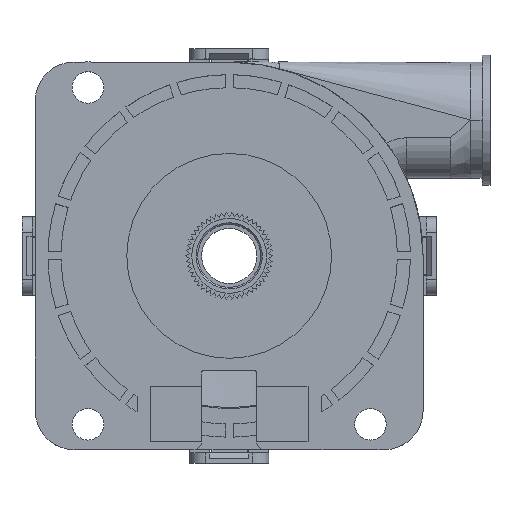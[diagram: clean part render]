
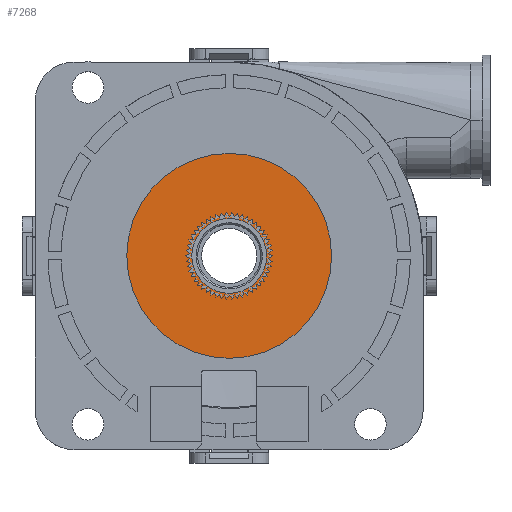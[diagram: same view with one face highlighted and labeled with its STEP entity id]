
A CAD part, top view. The second image highlights one B-rep face of the part: STEP entity #7268.
In plain terms, the highlighted planar face has unit normal (0, 0, 1).
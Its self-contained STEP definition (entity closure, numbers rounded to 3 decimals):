
#2613=CARTESIAN_POINT('',(0.,0.,19.85));
#2614=DIRECTION('',(0.,0.,1.));
#2615=DIRECTION('',(-1.,0.,0.));
#2616=AXIS2_PLACEMENT_3D('',#2613,#2614,#2615);
#2618=CARTESIAN_POINT('',(0.,0.,19.85));
#2619=DIRECTION('',(0.,0.,1.));
#2620=DIRECTION('',(1.,0.,0.));
#2621=AXIS2_PLACEMENT_3D('',#2618,#2619,#2620);
#2623=CARTESIAN_POINT('',(0.,0.,19.85));
#2624=DIRECTION('',(0.,0.,-1.));
#2625=DIRECTION('',(0.,-1.,0.));
#2626=AXIS2_PLACEMENT_3D('',#2623,#2624,#2625);
#2628=CARTESIAN_POINT('',(0.,0.,19.85));
#2629=DIRECTION('',(0.,0.,-1.));
#2630=DIRECTION('',(0.,1.,0.));
#2631=AXIS2_PLACEMENT_3D('',#2628,#2629,#2630);
#3523=CARTESIAN_POINT('',(0.,4.75,19.85));
#3524=VERTEX_POINT('',#3523);
#3525=CARTESIAN_POINT('',(0.,-4.75,19.85));
#3526=VERTEX_POINT('',#3525);
#3527=CARTESIAN_POINT('',(-13.,0.,19.85));
#3528=CARTESIAN_POINT('',(13.,0.,19.85));
#3529=VERTEX_POINT('',#3527);
#3530=VERTEX_POINT('',#3528);
#7253=CARTESIAN_POINT('',(0.,0.,19.85));
#7254=DIRECTION('',(0.,0.,1.));
#7255=DIRECTION('',(-1.,0.,0.));
#7256=AXIS2_PLACEMENT_3D('',#7253,#7254,#7255);
#7257=PLANE('',#7256);
#7258=ORIENTED_EDGE('',*,*,#7235,.F.);
#7259=ORIENTED_EDGE('',*,*,#7248,.F.);
#7260=EDGE_LOOP('',(#7258,#7259));
#7261=FACE_OUTER_BOUND('',#7260,.F.);
#7263=ORIENTED_EDGE('',*,*,#7262,.F.);
#7265=ORIENTED_EDGE('',*,*,#7264,.F.);
#7266=EDGE_LOOP('',(#7263,#7265));
#7267=FACE_BOUND('',#7266,.F.);
#7268=ADVANCED_FACE('',(#7261,#7267),#7257,.T.);
#2617=CIRCLE('',#2616,13.);
#2622=CIRCLE('',#2621,13.);
#2627=CIRCLE('',#2626,4.75);
#2632=CIRCLE('',#2631,4.75);
#7235=EDGE_CURVE('',#3529,#3530,#2617,.T.);
#7248=EDGE_CURVE('',#3530,#3529,#2622,.T.);
#7262=EDGE_CURVE('',#3526,#3524,#2627,.T.);
#7264=EDGE_CURVE('',#3524,#3526,#2632,.T.);
